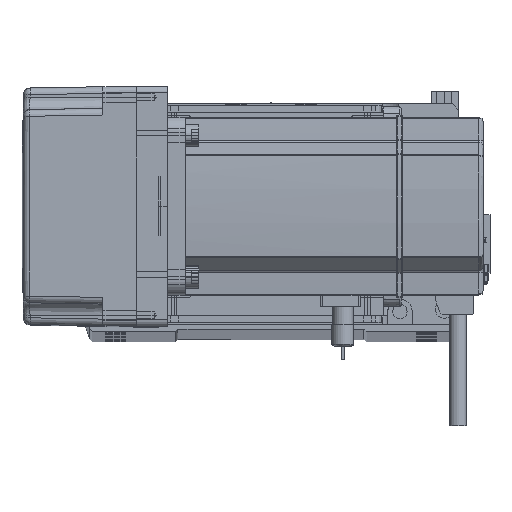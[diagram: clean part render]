
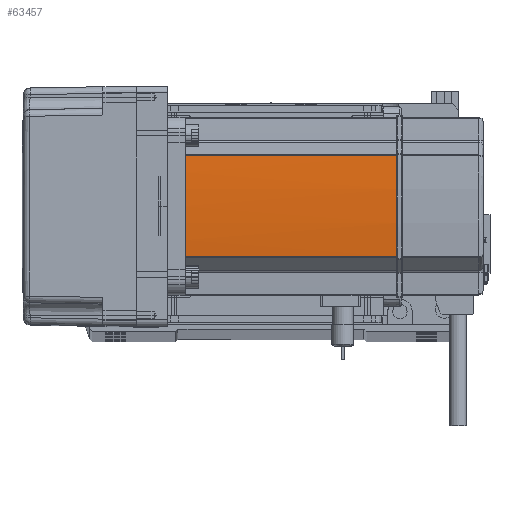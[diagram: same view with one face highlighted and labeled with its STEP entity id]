
A CAD part, top view. The second image highlights one B-rep face of the part: STEP entity #63457.
In plain terms, the highlighted cylindrical face has radius 270 mm (diameter 540 mm), a partial arc.
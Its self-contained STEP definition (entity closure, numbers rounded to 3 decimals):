
#1210 = AXIS2_PLACEMENT_3D ( 'NONE', #48552, #12993, #37961 ) ;
#1664 = VERTEX_POINT ( 'NONE', #32887 ) ;
#3686 = EDGE_CURVE ( 'NONE', #40443, #12444, #60594, .T. ) ;
#3716 = DIRECTION ( 'NONE',  ( 0., 0., -1. ) ) ;
#6273 = DIRECTION ( 'NONE',  ( 0., 0., -1. ) ) ;
#7547 = VERTEX_POINT ( 'NONE', #39957 ) ;
#8607 = CARTESIAN_POINT ( 'NONE',  ( 40., 0.127, 134. ) ) ;
#11263 = DIRECTION ( 'NONE',  ( -1., 0., 0. ) ) ;
#12444 = VERTEX_POINT ( 'NONE', #8607 ) ;
#12993 = DIRECTION ( 'NONE',  ( 0., 0., -1. ) ) ;
#14387 = DIRECTION ( 'NONE',  ( -1., 0., 0. ) ) ;
#16341 = DIRECTION ( 'NONE',  ( 0., 0., -1. ) ) ;
#16553 = CARTESIAN_POINT ( 'NONE',  ( 39.042, -22.724, 58. ) ) ;
#16597 = CARTESIAN_POINT ( 'NONE',  ( 39.042, 22.724, 58. ) ) ;
#18354 = CARTESIAN_POINT ( 'NONE',  ( 40., -0.127, 134. ) ) ;
#18395 = ORIENTED_EDGE ( 'NONE', *, *, #46235, .T. ) ;
#18487 = CYLINDRICAL_SURFACE ( 'NONE', #1210, 270. ) ;
#19589 = CARTESIAN_POINT ( 'NONE',  ( 40., -0.127, 134. ) ) ;
#20620 = EDGE_CURVE ( 'NONE', #40443, #1664, #23731, .T. ) ;
#20981 = ORIENTED_EDGE ( 'NONE', *, *, #22336, .F. ) ;
#21007 = DIRECTION ( 'NONE',  ( 0., 0., -1. ) ) ;
#22202 = ORIENTED_EDGE ( 'NONE', *, *, #3686, .F. ) ;
#22293 = ORIENTED_EDGE ( 'NONE', *, *, #20620, .T. ) ;
#22336 = EDGE_CURVE ( 'NONE', #22727, #37721, #57628, .T. ) ;
#22727 = VERTEX_POINT ( 'NONE', #58320 ) ;
#23017 = CARTESIAN_POINT ( 'NONE',  ( 39.042, -22.724, 39. ) ) ;
#23256 = LINE ( 'NONE', #16597, #58130 ) ;
#23731 = CIRCLE ( 'NONE', #33199, 270. ) ;
#26022 = DIRECTION ( 'NONE',  ( -1., 0., 0. ) ) ;
#26190 = AXIS2_PLACEMENT_3D ( 'NONE', #56169, #6273, #11263 ) ;
#28623 = FACE_OUTER_BOUND ( 'NONE', #29974, .T. ) ;
#29974 = EDGE_LOOP ( 'NONE', ( #32717, #20981, #47009, #18395, #22202, #22293 ) ) ;
#32636 = EDGE_CURVE ( 'NONE', #22727, #7547, #23256, .T. ) ;
#32717 = ORIENTED_EDGE ( 'NONE', *, *, #39090, .T. ) ;
#32887 = CARTESIAN_POINT ( 'NONE',  ( 39.042, -22.724, 134. ) ) ;
#33199 = AXIS2_PLACEMENT_3D ( 'NONE', #50750, #21007, #26022 ) ;
#34136 = CARTESIAN_POINT ( 'NONE',  ( -230., 0., 39. ) ) ;
#35551 = CIRCLE ( 'NONE', #26190, 270. ) ;
#36642 = VECTOR ( 'NONE', #16341, 1000. ) ;
#37721 = VERTEX_POINT ( 'NONE', #23017 ) ;
#37915 = CARTESIAN_POINT ( 'NONE',  ( 40., 0.127, 134. ) ) ;
#37961 = DIRECTION ( 'NONE',  ( -1., 0., 0. ) ) ;
#38570 = CARTESIAN_POINT ( 'NONE',  ( 40., -0.042, 134. ) ) ;
#39090 = EDGE_CURVE ( 'NONE', #1664, #37721, #49821, .T. ) ;
#39957 = CARTESIAN_POINT ( 'NONE',  ( 39.042, 22.724, 134. ) ) ;
#40443 = VERTEX_POINT ( 'NONE', #19589 ) ;
#43516 = CARTESIAN_POINT ( 'NONE',  ( 40., 0.042, 134. ) ) ;
#46235 = EDGE_CURVE ( 'NONE', #7547, #12444, #35551, .T. ) ;
#47009 = ORIENTED_EDGE ( 'NONE', *, *, #32636, .T. ) ;
#48552 = CARTESIAN_POINT ( 'NONE',  ( -230., 0., 58. ) ) ;
#49821 = LINE ( 'NONE', #16553, #36642 ) ;
#50750 = CARTESIAN_POINT ( 'NONE',  ( -230., 0., 134. ) ) ;
#55426 = DIRECTION ( 'NONE',  ( 0., 0., 1. ) ) ;
#56169 = CARTESIAN_POINT ( 'NONE',  ( -230., 0., 134. ) ) ;
#57628 = CIRCLE ( 'NONE', #57762, 270. ) ;
#57762 = AXIS2_PLACEMENT_3D ( 'NONE', #34136, #3716, #14387 ) ;
#58130 = VECTOR ( 'NONE', #55426, 1000. ) ;
#58320 = CARTESIAN_POINT ( 'NONE',  ( 39.042, 22.724, 39. ) ) ;
#60594 = B_SPLINE_CURVE_WITH_KNOTS ( 'NONE', 3,
 ( #18354, #38570, #43516, #37915 ),
 .UNSPECIFIED., .F., .F.,
 ( 4, 4 ),
 ( 0., 1. ),
 .UNSPECIFIED. ) ;
#63457 = ADVANCED_FACE ( 'NONE', ( #28623 ), #18487, .T. ) ;
